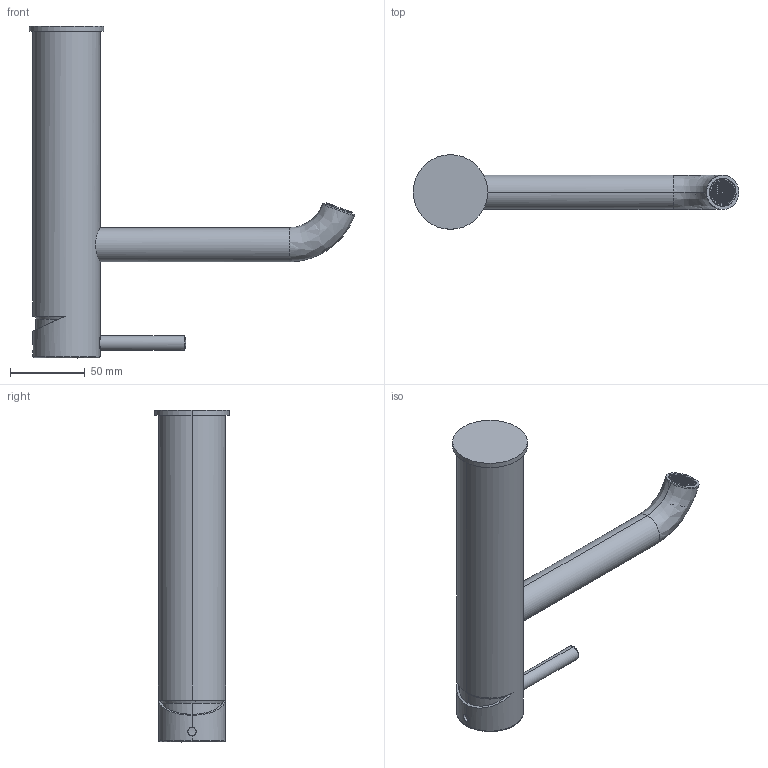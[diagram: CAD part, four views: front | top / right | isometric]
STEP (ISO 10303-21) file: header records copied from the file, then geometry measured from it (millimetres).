
FILE_DESCRIPTION (( 'STEP AP214' ), '1' );
FILE_NAME ('12316710 x architetti.STEP', '2024-09-24T09:29:45', ( '' ), ( '' ), 'SwSTEP 2.0', 'SolidWorks 2020', '' );
FILE_SCHEMA (( 'AUTOMOTIVE_DESIGN' ));
Length unit declared in the file: millimetre
Products named in the file (1): 12316710 x architetti
Bounding box: 218.38 x 50 x 222.64 mm (x, y, z)
Volume: 415595.4 mm3; surface area: 78714.7 mm2
Topology: 3 solids, 4 shells, 3952 faces, 11413 edges, 7381 vertices
Faces by surface type: plane 3345, cylinder 442, bspline 147, cone 18
Entity records: 186622 total; most frequent: CARTESIAN_POINT 50400, ORIENTED_EDGE 22822, DIRECTION 13780, EDGE_CURVE 11411, VERTEX_POINT 7381, VECTOR 5242, LINE 5242, B_SPLINE_CURVE_WITH_KNOTS 5060
